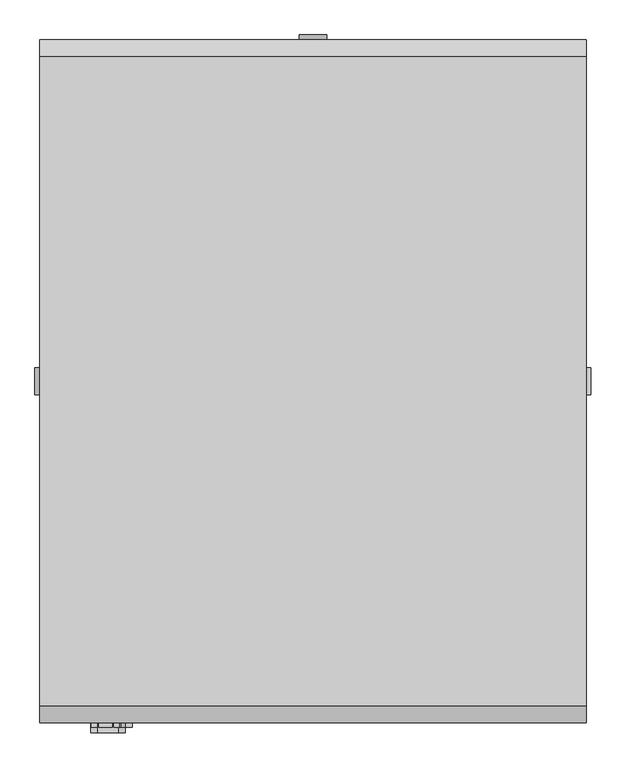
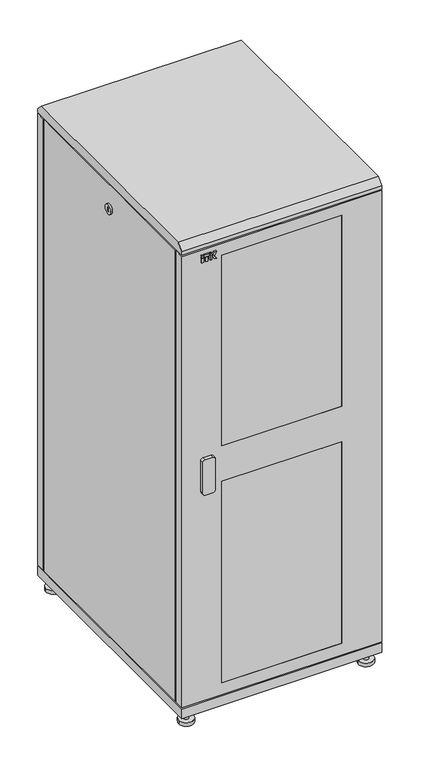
"""IFC4 building model written with IfcOpenShell, lengths in millimetres: proxy geometry, Шкафы ITK серия S_PP : LS05-42U81-PP-1."""

from ifc_helpers import new_model, si_unit, point, frame, frame_2d, origin, origin_with_axes, place, context, project, spatial, polyline, circle_curve, trimmed, segment, composite_curve, outline, extrude, faceted_brep, source, transform, mapped, element, save


def electrical_fixtures_e7b4683d(model_context):
    return source(origin(), model_context, "Body", "SolidModel", [
        extrude(outline(polyline([(-315.9746193, -507.0), (-324.197592, -507.0), (-324.197592, -500.0), (-315.9746193, -500.0), (-315.9746193, -507.0)])), frame((0.0, 0.0, 1955.0), z_axis=(0.0, 0.0, 1.0), x_axis=(1.0, 0.0, 0.0)), (0.0, 0.0, 1.0), 18.8087618),
        extrude(outline(polyline([(-299.9605777, -507.0), (-307.7053315, -507.0), (-307.7053315, -500.0), (-299.9605777, -500.0), (-299.9605777, -507.0)])), frame((0.0, 0.0, 1955.0), z_axis=(0.0, 0.0, 1.0), x_axis=(1.0, 0.0, 0.0)), (0.0, 0.0, 1.0), 18.8087618),
        extrude(outline(polyline([(-315.9746193, -507.0), (-324.197592, -507.0), (-324.197592, -500.0), (-315.9746193, -500.0), (-315.9746193, -507.0)])), frame((0.0, 0.0, 1976.4305892), z_axis=(0.0, 0.0, 1.0), x_axis=(1.0, 0.0, 0.0)), (0.0, 0.0, 1.0), 7.9794747),
        extrude(outline(polyline([(1955.0, -291.5184175), (1955.0, -283.7669278), (1966.0271455, -283.7669278), (1966.0271455, -280.8031229), (1955.0, -273.6420108), (1955.0, -264.197592), (1969.7278745, -274.8980192), (1984.410064, -264.197592), (1984.410064, -273.6420108), (1973.3829184, -280.8031229), (1973.3829184, -283.7669278), (1984.410064, -283.7669278), (1984.410064, -291.5184175), (1955.0, -291.5184175)])), frame((0.0, -507.0, 0.0), z_axis=(0.0, 1.0, 0.0), x_axis=(0.0, 0.0, 1.0)), (0.0, 0.0, 1.0), 7.0),
        extrude(outline(polyline([(-294.0851324, -507.0), (-313.5807768, -507.0), (-313.5807768, -500.0), (-294.0851324, -500.0), (-294.0851324, -507.0)])), frame((0.0, 0.0, 1976.4305892), z_axis=(0.0, 0.0, 1.0), x_axis=(1.0, 0.0, 0.0)), (0.0, 0.0, 1.0), 7.9794747),
        extrude(outline(composite_curve([segment(polyline([(1125.0, -285.0), (1125.0, -315.0)]), True, "CONTINUOUS"), segment(trimmed(circle_curve(frame_2d((1115.0, -315.0)), 10.0), [point((1125.0, -315.0))], [point((1115.0, -325.0))], False, "CARTESIAN"), True, "CONTINUOUS"), segment(polyline([(1115.0, -325.0), (985.0, -325.0)]), True, "CONTINUOUS"), segment(trimmed(circle_curve(frame_2d((985.0, -315.0)), 10.0), [point((985.0, -325.0))], [point((975.0, -315.0))], False, "CARTESIAN"), True, "CONTINUOUS"), segment(polyline([(975.0, -315.0), (975.0, -285.0)]), True, "CONTINUOUS"), segment(trimmed(circle_curve(frame_2d((985.0, -285.0)), 10.0), [point((975.0, -285.0))], [point((985.0, -275.0))], False, "CARTESIAN"), True, "CONTINUOUS"), segment(polyline([(985.0, -275.0), (1115.0, -275.0)]), True, "CONTINUOUS"), segment(trimmed(circle_curve(frame_2d((1115.0, -285.0)), 10.0), [point((1115.0, -275.0))], [point((1125.0, -285.0))], False, "CARTESIAN"), True, "CONTINUOUS")], self_intersect=False)), frame((0.0, -515.0, 0.0), z_axis=(0.0, 1.0, 0.0), x_axis=(0.0, 0.0, 1.0)), (0.0, 0.0, 1.0), 15.0),
        faceted_brep([(-360.0, -480.0, 2005.0), (-360.0, -445.0, 2005.0), (-370.0, -445.0, 2005.0), (-370.0, -460.0, 2005.0), (-400.0, -460.0, 2005.0), (-400.0, -500.0, 2005.0), (400.0, -500.0, 2005.0), (400.0, -460.0, 2005.0), (370.0, -460.0, 2005.0), (370.0, -445.0, 2005.0), (360.0, -445.0, 2005.0), (360.0, -480.0, 2005.0), (-400.0, -500.0, 95.0), (-400.0, -460.0, 95.0), (-370.0, -460.0, 95.0), (-370.0, -445.0, 95.0), (-360.0, -445.0, 95.0), (-360.0, -480.0, 95.0), (360.0, -480.0, 95.0), (360.0, -445.0, 95.0), (370.0, -445.0, 95.0), (370.0, -460.0, 95.0), (400.0, -460.0, 95.0), (400.0, -500.0, 95.0), (-240.0, -500.0, 997.5), (240.0, -500.0, 997.5), (240.0, -500.0, 145.0), (-240.0, -500.0, 145.0), (-240.0, -500.0, 1955.0), (240.0, -500.0, 1955.0), (240.0, -500.0, 1147.5), (-240.0, -500.0, 1147.5), (-240.0, -480.0, 145.0), (240.0, -480.0, 145.0), (240.0, -480.0, 997.5), (-240.0, -480.0, 997.5), (-240.0, -480.0, 1147.5), (240.0, -480.0, 1147.5), (240.0, -480.0, 1955.0), (-240.0, -480.0, 1955.0)], [[[0, 1, 2, 3, 4, 5, 6, 7, 8, 9, 10, 11]], [[12, 13, 14, 15, 16, 17, 18, 19, 20, 21, 22, 23]], [[6, 5, 12, 23], [24, 25, 26, 27], [28, 29, 30, 31]], [[5, 4, 13, 12]], [[4, 3, 14, 13]], [[0, 11, 18, 17], [32, 33, 34, 35], [36, 37, 38, 39]], [[32, 35, 24, 27]], [[36, 39, 28, 31]], [[34, 33, 26, 25]], [[38, 37, 30, 29]], [[27, 26, 33, 32]], [[31, 30, 37, 36]], [[25, 24, 35, 34]], [[29, 28, 39, 38]], [[1, 0, 17, 16]], [[2, 1, 16, 15]], [[3, 2, 15, 14]], [[7, 6, 23, 22]], [[8, 7, 22, 21]], [[9, 8, 21, 20]], [[10, 9, 20, 19]], [[11, 10, 19, 18]]]),
        extrude(outline(polyline([(240.0, -500.0), (-240.0, -500.0), (-240.0, -480.0), (240.0, -480.0), (240.0, -500.0)])), frame((0.0, 0.0, 1147.5), z_axis=(0.0, 0.0, 1.0), x_axis=(1.0, 0.0, 0.0)), (0.0, 0.0, 1.0), 807.5),
        extrude(outline(polyline([(240.0, -500.0), (-240.0, -500.0), (-240.0, -480.0), (240.0, -480.0), (240.0, -500.0)])), frame((0.0, 0.0, 145.0), z_axis=(0.0, 0.0, 1.0), x_axis=(1.0, 0.0, 0.0)), (0.0, 0.0, 1.0), 852.5),
        extrude(outline(composite_curve([segment(trimmed(circle_curve(frame_2d((-360.0, 460.0)), 10.0), [point((-350.0, 460.0))], [point((-370.0, 460.0))], False, "CARTESIAN"), True, "CONTINUOUS"), segment(trimmed(circle_curve(frame_2d((-360.0, 460.0)), 10.0), [point((-370.0, 460.0))], [point((-350.0, 460.0))], False, "CARTESIAN"), True, "CONTINUOUS")], self_intersect=False)), frame((0.0, 0.0, 15.0), z_axis=(0.0, 0.0, 1.0), x_axis=(1.0, 0.0, 0.0)), (0.0, 0.0, 1.0), 35.0),
        extrude(outline(composite_curve([segment(trimmed(circle_curve(frame_2d((360.0, 460.0)), 10.0), [point((370.0, 460.0))], [point((350.0, 460.0))], False, "CARTESIAN"), True, "CONTINUOUS"), segment(trimmed(circle_curve(frame_2d((360.0, 460.0)), 10.0), [point((350.0, 460.0))], [point((370.0, 460.0))], False, "CARTESIAN"), True, "CONTINUOUS")], self_intersect=False)), frame((0.0, 0.0, 15.0), z_axis=(0.0, 0.0, 1.0), x_axis=(1.0, 0.0, 0.0)), (0.0, 0.0, 1.0), 35.0),
        extrude(outline(composite_curve([segment(trimmed(circle_curve(frame_2d((-360.0, -460.0)), 10.0), [point((-350.0, -460.0))], [point((-370.0, -460.0))], False, "CARTESIAN"), True, "CONTINUOUS"), segment(trimmed(circle_curve(frame_2d((-360.0, -460.0)), 10.0), [point((-370.0, -460.0))], [point((-350.0, -460.0))], False, "CARTESIAN"), True, "CONTINUOUS")], self_intersect=False)), frame((0.0, 0.0, 15.0), z_axis=(0.0, 0.0, 1.0), x_axis=(1.0, 0.0, 0.0)), (0.0, 0.0, 1.0), 35.0),
        extrude(outline(composite_curve([segment(trimmed(circle_curve(frame_2d((360.0, -460.0)), 10.0), [point((370.0, -460.0))], [point((350.0, -460.0))], False, "CARTESIAN"), True, "CONTINUOUS"), segment(trimmed(circle_curve(frame_2d((360.0, -460.0)), 10.0), [point((350.0, -460.0))], [point((370.0, -460.0))], False, "CARTESIAN"), True, "CONTINUOUS")], self_intersect=False)), frame((0.0, 0.0, 15.0), z_axis=(0.0, 0.0, 1.0), x_axis=(1.0, 0.0, 0.0)), (0.0, 0.0, 1.0), 35.0),
        extrude(outline(composite_curve([segment(trimmed(circle_curve(frame_2d((-360.0, 460.0)), 30.0), [point((-330.0, 460.0))], [point((-390.0, 460.0))], False, "CARTESIAN"), True, "CONTINUOUS"), segment(trimmed(circle_curve(frame_2d((-360.0, 460.0)), 30.0), [point((-390.0, 460.0))], [point((-330.0, 460.0))], False, "CARTESIAN"), True, "CONTINUOUS")], self_intersect=False)), origin_with_axes(), (0.0, 0.0, 1.0), 15.0),
        extrude(outline(composite_curve([segment(trimmed(circle_curve(frame_2d((360.0, 460.0)), 30.0), [point((390.0, 460.0))], [point((330.0, 460.0))], False, "CARTESIAN"), True, "CONTINUOUS"), segment(trimmed(circle_curve(frame_2d((360.0, 460.0)), 30.0), [point((330.0, 460.0))], [point((390.0, 460.0))], False, "CARTESIAN"), True, "CONTINUOUS")], self_intersect=False)), origin_with_axes(), (0.0, 0.0, 1.0), 15.0),
        extrude(outline(composite_curve([segment(trimmed(circle_curve(frame_2d((-360.0, -460.0)), 30.0), [point((-330.0, -460.0))], [point((-390.0, -460.0))], False, "CARTESIAN"), True, "CONTINUOUS"), segment(trimmed(circle_curve(frame_2d((-360.0, -460.0)), 30.0), [point((-390.0, -460.0))], [point((-330.0, -460.0))], False, "CARTESIAN"), True, "CONTINUOUS")], self_intersect=False)), origin_with_axes(), (0.0, 0.0, 1.0), 15.0),
        extrude(outline(composite_curve([segment(trimmed(circle_curve(frame_2d((360.0, -460.0)), 30.0), [point((390.0, -460.0))], [point((330.0, -460.0))], False, "CARTESIAN"), True, "CONTINUOUS"), segment(trimmed(circle_curve(frame_2d((360.0, -460.0)), 30.0), [point((330.0, -460.0))], [point((390.0, -460.0))], False, "CARTESIAN"), True, "CONTINUOUS")], self_intersect=False)), origin_with_axes(), (0.0, 0.0, 1.0), 15.0),
        extrude(outline(polyline([(-475.0, 2050.0), (475.0, 2050.0), (500.0, 2025.0), (500.0, 2010.0), (-500.0, 2010.0), (-500.0, 2025.0), (-475.0, 2050.0)])), frame((-400.0, 0.0, 0.0), z_axis=(1.0, 0.0, 0.0), x_axis=(0.0, 1.0, 0.0)), (0.0, 0.0, 1.0), 800.0),
        extrude(outline(polyline([(360.0, 460.0), (360.0, 445.0), (390.0, 445.0), (390.0, -445.0), (360.0, -445.0), (360.0, -460.0), (345.0, -460.0), (345.0, -480.0), (-345.0, -480.0), (-345.0, -460.0), (-360.0, -460.0), (-360.0, -445.0), (-390.0, -445.0), (-390.0, 445.0), (-360.0, 445.0), (-360.0, 460.0), (-345.0, 460.0), (-345.0, 490.0), (345.0, 490.0), (345.0, 460.0), (360.0, 460.0)])), frame((0.0, 0.0, 90.0), z_axis=(0.0, 0.0, 1.0), x_axis=(1.0, 0.0, 0.0)), (0.0, 0.0, 1.0), 5.0),
        extrude(outline(polyline([(360.0, 460.0), (360.0, 445.0), (390.0, 445.0), (390.0, -445.0), (360.0, -445.0), (360.0, -460.0), (345.0, -460.0), (345.0, -480.0), (-345.0, -480.0), (-345.0, -460.0), (-360.0, -460.0), (-360.0, -445.0), (-390.0, -445.0), (-390.0, 445.0), (-360.0, 445.0), (-360.0, 460.0), (-345.0, 460.0), (-345.0, 490.0), (345.0, 490.0), (345.0, 460.0), (360.0, 460.0)])), frame((0.0, 0.0, 2005.0), z_axis=(0.0, 0.0, 1.0), x_axis=(1.0, 0.0, 0.0)), (0.0, 0.0, 1.0), 5.0),
        extrude(outline(polyline([(400.0, -500.0), (-400.0, -500.0), (-400.0, 500.0), (400.0, 500.0), (400.0, -500.0)])), frame((0.0, 0.0, 50.0), z_axis=(0.0, 0.0, 1.0), x_axis=(1.0, 0.0, 0.0)), (0.0, 0.0, 1.0), 40.0),
        extrude(outline(composite_curve([segment(trimmed(circle_curve(frame_2d((1905.0, 0.0)), 20.0), [point((1905.0, 20.0))], [point((1905.0, -20.0))], False, "CARTESIAN"), True, "CONTINUOUS"), segment(trimmed(circle_curve(frame_2d((1905.0, 0.0)), 20.0), [point((1905.0, -20.0))], [point((1905.0, 20.0))], False, "CARTESIAN"), True, "CONTINUOUS")], self_intersect=False), holes=[polyline([(1896.7814397, -3.0), (1913.2185603, -3.0), (1913.2185603, 3.0), (1896.7814397, 3.0), (1896.7814397, -3.0)])]), frame((0.0, 500.0, 0.0), z_axis=(0.0, 1.0, 0.0), x_axis=(0.0, 0.0, 1.0)), (0.0, 0.0, 1.0), 7.0),
        extrude(outline(polyline([(400.0, 500.0), (400.0, 460.0), (370.0, 460.0), (370.0, 445.0), (360.0, 445.0), (360.0, 490.0), (-360.0, 490.0), (-360.0, 445.0), (-370.0, 445.0), (-370.0, 460.0), (-400.0, 460.0), (-400.0, 500.0), (400.0, 500.0)])), frame((0.0, 0.0, 95.0), z_axis=(0.0, 0.0, 1.0), x_axis=(1.0, 0.0, 0.0)), (0.0, 0.0, 1.0), 1910.0),
        extrude(outline(composite_curve([segment(trimmed(circle_curve(frame_2d((0.0, 1905.0)), 20.0), [point((-20.0, 1905.0))], [point((20.0, 1905.0))], False, "CARTESIAN"), True, "CONTINUOUS"), segment(trimmed(circle_curve(frame_2d((0.0, 1905.0)), 20.0), [point((20.0, 1905.0))], [point((-20.0, 1905.0))], False, "CARTESIAN"), True, "CONTINUOUS")], self_intersect=False), holes=[polyline([(3.0, 1896.7814397), (3.0, 1913.2185603), (-3.0, 1913.2185603), (-3.0, 1896.7814397), (3.0, 1896.7814397)])]), frame((400.0, 0.0, 0.0), z_axis=(1.0, 0.0, 0.0), x_axis=(0.0, 1.0, 0.0)), (0.0, 0.0, 1.0), 7.0),
        extrude(outline(composite_curve([segment(trimmed(circle_curve(frame_2d((0.0, 1905.0)), 20.0), [point((20.0, 1905.0))], [point((-20.0, 1905.0))], False, "CARTESIAN"), True, "CONTINUOUS"), segment(trimmed(circle_curve(frame_2d((0.0, 1905.0)), 20.0), [point((-20.0, 1905.0))], [point((20.0, 1905.0))], False, "CARTESIAN"), True, "CONTINUOUS")], self_intersect=False), holes=[polyline([(-3.0, 1896.7814397), (3.0, 1896.7814397), (3.0, 1913.2185603), (-3.0, 1913.2185603), (-3.0, 1896.7814397)])]), frame((-407.0, 0.0, 0.0), z_axis=(1.0, 0.0, 0.0), x_axis=(0.0, 1.0, 0.0)), (0.0, 0.0, 1.0), 7.0),
        extrude(outline(polyline([(-370.0, 455.0), (-370.0, 445.0), (-389.9803177, 445.0), (-389.9803177, -445.0), (-369.9803177, -445.0), (-369.9803177, -455.0), (-400.0, -455.0), (-400.0, 455.0), (-370.0, 455.0)])), frame((0.0, 0.0, 95.0), z_axis=(0.0, 0.0, 1.0), x_axis=(1.0, 0.0, 0.0)), (0.0, 0.0, 1.0), 1910.0),
        extrude(outline(polyline([(369.9803177, 455.0), (400.0, 455.0), (400.0, -455.0), (369.9803177, -455.0), (369.9803177, -445.0), (389.9803177, -445.0), (389.9803177, 445.0), (369.9803177, 445.0), (369.9803177, 455.0)])), frame((0.0, 0.0, 95.0), z_axis=(0.0, 0.0, 1.0), x_axis=(1.0, 0.0, 0.0)), (0.0, 0.0, 1.0), 1910.0),
    ])


if __name__ == "__main__":
    model = new_model("IFC4")
    model_context = context("Model", 3, world=origin())
    ifc_project = project(units=[si_unit("LENGTHUNIT", "METRE", prefix="MILLI")], contexts=[model_context])
    site = spatial("IfcSite", under=ifc_project)
    building = spatial("IfcBuilding", under=site)
    placement = place(None, origin())
    electrical_fixtures_shape = electrical_fixtures_e7b4683d(model_context)
    element("IfcBuildingElementProxy", 1, Name="Шкафы ITK серия S_PP : LS05-42U81-PP-1", ObjectType="Шкафы ITK серия S_PP : LS05-42U81-PP-1", at=placement, inside=building, context=model_context, shape_type="MappedRepresentation", body=[
        mapped(electrical_fixtures_shape, transform((0.0, 0.0, 0.0), x_axis=(1.0, 0.0, 0.0), y_axis=(0.0, 1.0, 0.0), z_axis=(0.0, 0.0, 1.0))),
    ])
    save(model, "model.ifc")
